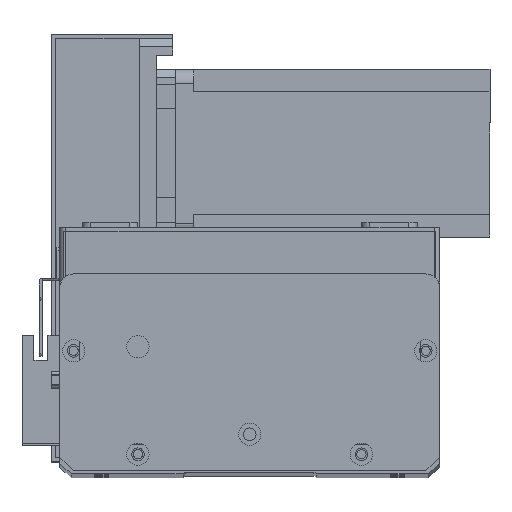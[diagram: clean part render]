
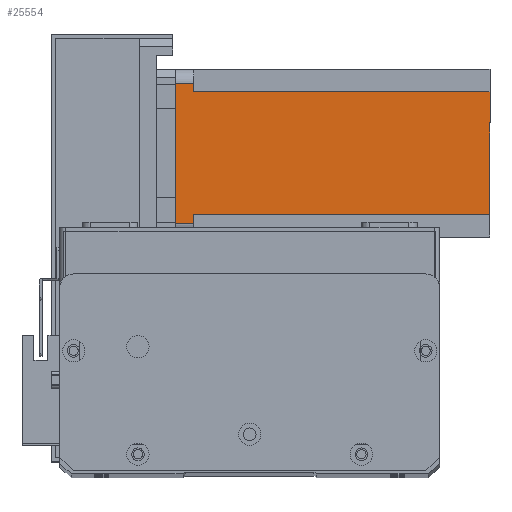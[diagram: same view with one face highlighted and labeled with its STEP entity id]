
A CAD part, top view. The second image highlights one B-rep face of the part: STEP entity #25554.
In plain terms, the highlighted planar face has unit normal (0, 0, 1) as drawn and (0, -1, 0) by its records, which use the part's own axes.
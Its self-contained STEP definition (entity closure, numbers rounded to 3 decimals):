
#397 = EDGE_CURVE ( 'NONE', #14819, #14441, #26755, .T. ) ;
#692 = ORIENTED_EDGE ( 'NONE', *, *, #2930, .T. ) ;
#1267 = VECTOR ( 'NONE', #23397, 1000. ) ;
#2004 = LINE ( 'NONE', #12378, #25153 ) ;
#2886 = VECTOR ( 'NONE', #26724, 1000. ) ;
#2930 = EDGE_CURVE ( 'NONE', #28641, #22552, #22815, .T. ) ;
#3445 = DIRECTION ( 'NONE',  ( -1., 0., 0. ) ) ;
#3860 = EDGE_LOOP ( 'NONE', ( #14450, #26277, #19345, #692, #21811, #13095, #11317, #23903 ) ) ;
#4265 = VECTOR ( 'NONE', #6485, 1000. ) ;
#5425 = EDGE_CURVE ( 'NONE', #19487, #5446, #12586, .T. ) ;
#5446 = VERTEX_POINT ( 'NONE', #26635 ) ;
#5526 = CARTESIAN_POINT ( 'NONE',  ( 8., 0., -112.5 ) ) ;
#5695 = LINE ( 'NONE', #28873, #4265 ) ;
#6227 = VECTOR ( 'NONE', #10117, 1000. ) ;
#6485 = DIRECTION ( 'NONE',  ( 1., 0., 0. ) ) ;
#6921 = LINE ( 'NONE', #21351, #6227 ) ;
#9296 = LINE ( 'NONE', #10414, #14573 ) ;
#9318 = EDGE_CURVE ( 'NONE', #16267, #22552, #2004, .T. ) ;
#10117 = DIRECTION ( 'NONE',  ( 0., 0., 1. ) ) ;
#10414 = CARTESIAN_POINT ( 'NONE',  ( 0., 0., 0. ) ) ;
#10470 = CARTESIAN_POINT ( 'NONE',  ( 0., 0., -112.5 ) ) ;
#11317 = ORIENTED_EDGE ( 'NONE', *, *, #23691, .T. ) ;
#11375 = LINE ( 'NONE', #27628, #22537 ) ;
#12052 = DIRECTION ( 'NONE',  ( 1., 0., 0. ) ) ;
#12378 = CARTESIAN_POINT ( 'NONE',  ( 8., 0., -6.5 ) ) ;
#12586 = LINE ( 'NONE', #26881, #1267 ) ;
#12704 = CARTESIAN_POINT ( 'NONE',  ( 55., 0., -6.5 ) ) ;
#13095 = ORIENTED_EDGE ( 'NONE', *, *, #19931, .F. ) ;
#13575 = AXIS2_PLACEMENT_3D ( 'NONE', #10470, #28313, #14978 ) ;
#14441 = VERTEX_POINT ( 'NONE', #15741 ) ;
#14450 = ORIENTED_EDGE ( 'NONE', *, *, #24029, .T. ) ;
#14573 = VECTOR ( 'NONE', #17152, 1000. ) ;
#14819 = VERTEX_POINT ( 'NONE', #12704 ) ;
#14978 = DIRECTION ( 'NONE',  ( 0., 0., -1. ) ) ;
#15740 = EDGE_CURVE ( 'NONE', #28641, #14441, #9296, .T. ) ;
#15741 = CARTESIAN_POINT ( 'NONE',  ( 55., 0., 0. ) ) ;
#16267 = VERTEX_POINT ( 'NONE', #27835 ) ;
#16911 = VECTOR ( 'NONE', #23354, 1000. ) ;
#17152 = DIRECTION ( 'NONE',  ( 1., 0., 0. ) ) ;
#19345 = ORIENTED_EDGE ( 'NONE', *, *, #15740, .F. ) ;
#19368 = PLANE ( 'NONE',  #13575 ) ;
#19487 = VERTEX_POINT ( 'NONE', #19811 ) ;
#19811 = CARTESIAN_POINT ( 'NONE',  ( 52., 0., -6.5 ) ) ;
#19931 = EDGE_CURVE ( 'NONE', #26312, #16267, #6921, .T. ) ;
#20687 = CARTESIAN_POINT ( 'NONE',  ( 5., 0., 0. ) ) ;
#21351 = CARTESIAN_POINT ( 'NONE',  ( 8., 0., -112.5 ) ) ;
#21811 = ORIENTED_EDGE ( 'NONE', *, *, #9318, .F. ) ;
#22537 = VECTOR ( 'NONE', #12052, 1000. ) ;
#22552 = VERTEX_POINT ( 'NONE', #26402 ) ;
#22815 = LINE ( 'NONE', #22917, #16911 ) ;
#22917 = CARTESIAN_POINT ( 'NONE',  ( 5., 0., -112.5 ) ) ;
#23354 = DIRECTION ( 'NONE',  ( 0., 0., -1. ) ) ;
#23397 = DIRECTION ( 'NONE',  ( 0., 0., -1. ) ) ;
#23691 = EDGE_CURVE ( 'NONE', #26312, #5446, #11375, .T. ) ;
#23903 = ORIENTED_EDGE ( 'NONE', *, *, #5425, .F. ) ;
#24029 = EDGE_CURVE ( 'NONE', #19487, #14819, #5695, .T. ) ;
#25153 = VECTOR ( 'NONE', #3445, 1000. ) ;
#25554 = ADVANCED_FACE ( 'NONE', ( #28358 ), #19368, .T. ) ;
#26277 = ORIENTED_EDGE ( 'NONE', *, *, #397, .T. ) ;
#26312 = VERTEX_POINT ( 'NONE', #5526 ) ;
#26402 = CARTESIAN_POINT ( 'NONE',  ( 5., 0., -6.5 ) ) ;
#26635 = CARTESIAN_POINT ( 'NONE',  ( 52., 0., -112.5 ) ) ;
#26692 = CARTESIAN_POINT ( 'NONE',  ( 55., 0., -112.5 ) ) ;
#26724 = DIRECTION ( 'NONE',  ( 0., 0., 1. ) ) ;
#26755 = LINE ( 'NONE', #26692, #2886 ) ;
#26881 = CARTESIAN_POINT ( 'NONE',  ( 52., 0., -112.5 ) ) ;
#27628 = CARTESIAN_POINT ( 'NONE',  ( 0., 0., -112.5 ) ) ;
#27835 = CARTESIAN_POINT ( 'NONE',  ( 8., 0., -6.5 ) ) ;
#28313 = DIRECTION ( 'NONE',  ( 0., -1., 0. ) ) ;
#28358 = FACE_OUTER_BOUND ( 'NONE', #3860, .T. ) ;
#28641 = VERTEX_POINT ( 'NONE', #20687 ) ;
#28873 = CARTESIAN_POINT ( 'NONE',  ( 52., 0., -6.5 ) ) ;
